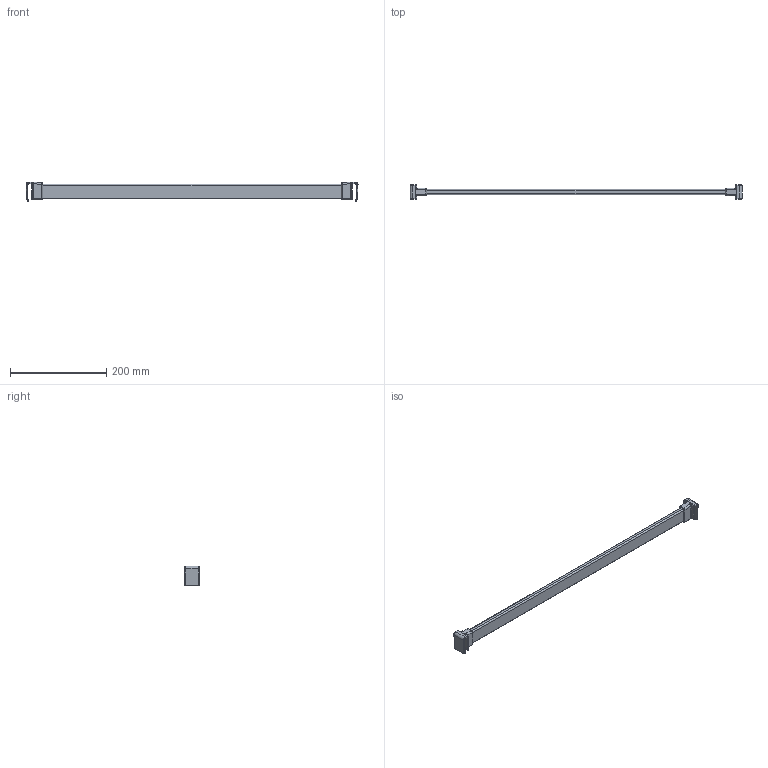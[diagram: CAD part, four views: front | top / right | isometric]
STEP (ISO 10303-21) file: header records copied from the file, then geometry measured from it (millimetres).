
FILE_DESCRIPTION (( 'STEP AP214' ), '1' );
FILE_NAME ('_Querreling_KAB-750_KS-16_P602_Glashalter.step', '2010-08-26T14:59:34', ( 'grass' ), ( '' ), 'SwSTEP 2.0', 'SolidWorks 2009', '' );
FILE_SCHEMA (( 'AUTOMOTIVE_DESIGN' ));
Length unit declared in the file: millimetre
Products named in the file (1): _Querreling_KAB-750_KS-16_P602_Glashalter
Bounding box: 690.78 x 30 x 41.5 mm (x, y, z)
Volume: 227701.9 mm3; surface area: 62114.3 mm2
Topology: 1 solids, 1 shells, 124 faces, 300 edges, 176 vertices
Faces by surface type: cylinder 58, plane 34, torus 16, bspline 12, sphere 4
Entity records: 5090 total; most frequent: CARTESIAN_POINT 2269, ORIENTED_EDGE 592, DIRECTION 590, EDGE_CURVE 296, AXIS2_PLACEMENT_3D 225, VERTEX_POINT 176, VECTOR 140, LINE 140
